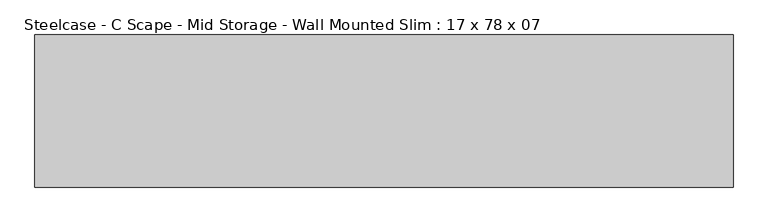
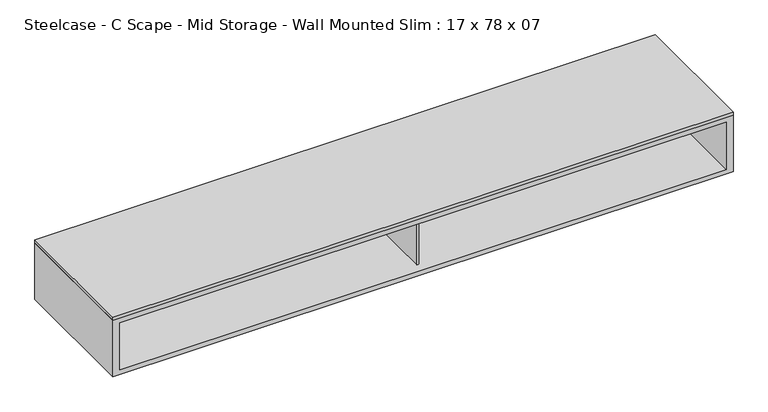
"""IFC4 building model written with IfcOpenShell, lengths in millimetres: furniture geometry, Steelcase - C Scape - Mid Storage - Wall Mounted Slim : 17 x 78 x 07."""

from ifc_helpers import new_model, si_unit, frame, origin, place, context, project, spatial, polyline, outline, extrude, faceted_brep, source, transform, mapped, element, save


def steelcase_c_scape_mid_storage_wall_mounted_slim_17_x_78_x_07_8f566872(model_context):
    return source(origin(), model_context, "Body", "SolidModel", [
        extrude(outline(polyline([(1981.2, 215.9), (1981.2, -215.9), (0.0, -215.9), (0.0, 215.9), (1981.2, 215.9)])), frame((0.0, 0.0, 1028.7), z_axis=(0.0, 0.0, 1.0), x_axis=(1.0, 0.0, 0.0)), (0.0, 0.0, 1.0), 10.16),
        extrude(outline(polyline([(987.425, -187.1471039), (987.425, 206.3755809), (993.775, 206.3755809), (993.775, -187.1471039), (987.425, -187.1471039)])), frame((0.0, 0.0, 853.4399855), z_axis=(0.0, 0.0, 1.0), x_axis=(1.0, 0.0, 0.0)), (0.0, 0.0, 1.0), 160.0200145),
        faceted_brep([(1981.2, -215.9, 1028.7), (0.0, -215.9, 1028.7), (0.0, -215.9, 838.2), (1981.2, -215.9, 838.2), (1959.102, -215.9, 1013.46), (1959.102, -215.9, 853.4399855), (21.9711633, -215.9, 853.4399855), (21.9711633, -215.9, 1013.46), (1981.2, 215.9, 1028.7), (1981.2, 215.9, 838.2), (0.0, 215.9, 838.2), (0.0, 215.9, 1028.7), (1959.102, 206.3755809, 1013.46), (1959.102, 206.3755809, 853.4399855), (980.2619767, 206.3755809, 853.4399855), (21.9711633, 206.3755809, 853.4399855), (21.9711633, 206.3755809, 1013.46), (980.2619767, 206.3755809, 1013.46)], [[[0, 1, 2, 3], [4, 5, 6, 7]], [[8, 9, 10, 11]], [[1, 0, 8, 11]], [[2, 1, 11, 10]], [[3, 2, 10, 9]], [[0, 3, 9, 8]], [[5, 4, 12, 13]], [[6, 5, 13, 14, 15]], [[7, 6, 15, 16]], [[4, 7, 16, 17, 12]], [[14, 17, 16, 15]], [[17, 14, 13, 12]]]),
    ])


if __name__ == "__main__":
    model = new_model("IFC4")
    model_context = context("Model", 3, world=origin())
    ifc_project = project(units=[si_unit("LENGTHUNIT", "METRE", prefix="MILLI")], contexts=[model_context])
    site = spatial("IfcSite", under=ifc_project)
    building = spatial("IfcBuilding", under=site)
    placement = place(None, origin())
    steelcase_c_scape_mid_storage_wall_mounted_slim_17_x_78_x_07_shape = steelcase_c_scape_mid_storage_wall_mounted_slim_17_x_78_x_07_8f566872(model_context)
    element("IfcFurniture", 1, ObjectType="Steelcase - C Scape - Mid Storage - Wall Mounted Slim : 17 x 78 x 07", at=placement, inside=building, context=model_context, shape_type="MappedRepresentation", body=[
        mapped(steelcase_c_scape_mid_storage_wall_mounted_slim_17_x_78_x_07_shape, transform((0.0, 0.0, 0.0), x_axis=(1.0, 0.0, 0.0), y_axis=(0.0, 1.0, 0.0), z_axis=(0.0, 0.0, 1.0))),
    ])
    save(model, "model.ifc")
